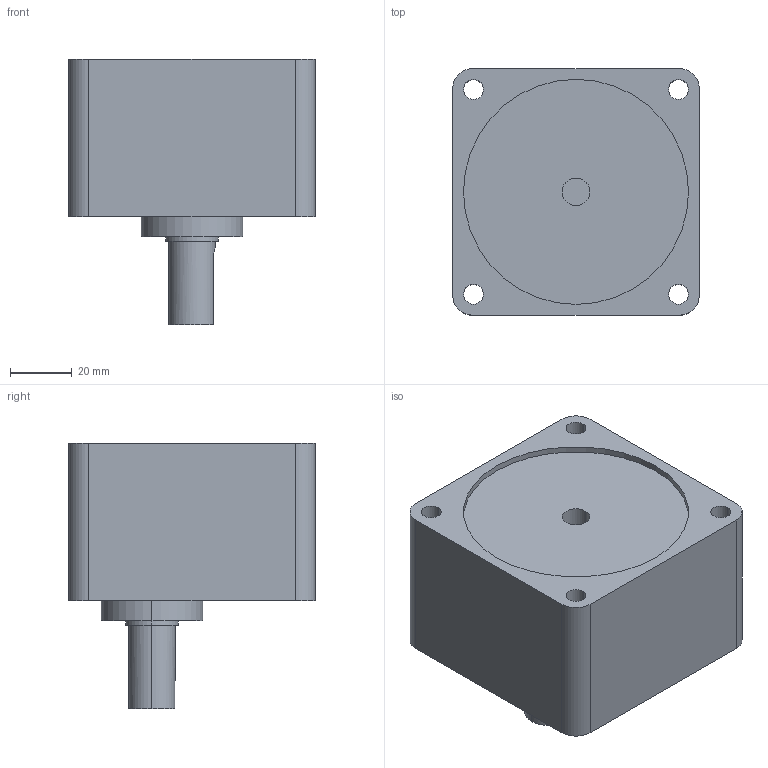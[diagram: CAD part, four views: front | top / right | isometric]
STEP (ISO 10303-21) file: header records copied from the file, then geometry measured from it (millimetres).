
FILE_DESCRIPTION (( 'STEP AP203' ), '1' );
FILE_NAME ('A1891C.step', '2024-04-24T09:17:53', ( '' ), ( '' ), 'SwSTEP 2.0', 'SolidWorks 2023', '' );
FILE_SCHEMA (( 'CONFIG_CONTROL_DESIGN' ));
Length unit declared in the file: millimetre
Products named in the file (1): A1891C
Bounding box: 80 x 80 x 86 mm (x, y, z)
Volume: 315859.6 mm3; surface area: 35980.9 mm2
Topology: 1 solids, 1 shells, 49 faces, 116 edges, 75 vertices
Faces by surface type: cylinder 29, plane 16, cone 4
Entity records: 1542 total; most frequent: DIRECTION 271, CARTESIAN_POINT 269, ORIENTED_EDGE 228, EDGE_CURVE 114, AXIS2_PLACEMENT_3D 109, VERTEX_POINT 75, EDGE_LOOP 65, CIRCLE 59
